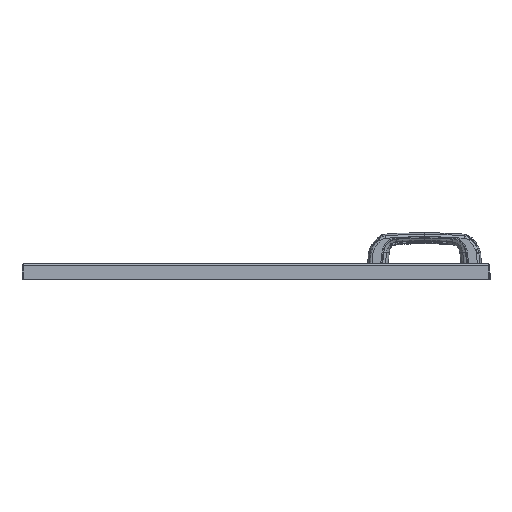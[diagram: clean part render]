
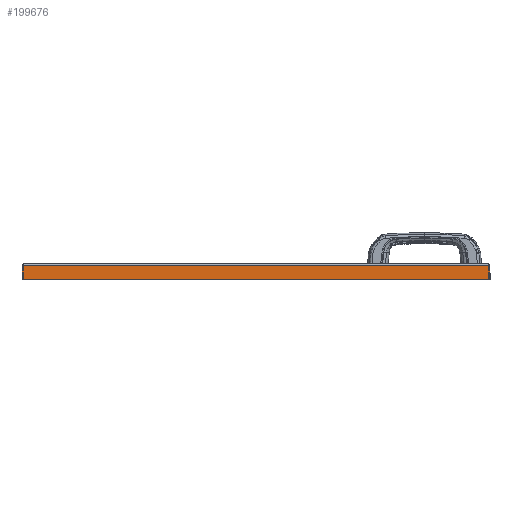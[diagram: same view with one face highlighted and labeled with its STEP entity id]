
A CAD part, left-side view. The second image highlights one B-rep face of the part: STEP entity #199676.
In plain terms, the highlighted planar face has unit normal (-1, 0, 0).
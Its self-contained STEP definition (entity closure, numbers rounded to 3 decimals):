
#195166=CARTESIAN_POINT(' ',(0.,597.,-2.3));
#195167=VERTEX_POINT(' ',#195166);
#195181=CARTESIAN_POINT(' ',(0.,597.,-2.3));
#195186=DIRECTION(' ',(0.,-1.,0.));
#195191=VECTOR(' ',#195186,1.);
#195196=LINE('',#195181,#195191);
#195201=CARTESIAN_POINT(' ',(0.,0.,-2.3));
#195202=VERTEX_POINT(' ',#195201);
#195206=EDGE_CURVE(' ',#195167,#195202,#195196,.T.);
#199536=DIRECTION(' ',(-1.,-0.,-0.));
#199541=CARTESIAN_POINT(' ',(0.,0.,-2.3));
#199546=DIRECTION(' ',(-0.,1.,0.));
#199551=AXIS2_PLACEMENT_3D(' ',#199541,#199536,#199546);
#199556=PLANE('NONE',#199551);
#199561=CARTESIAN_POINT(' ',(0.,0.,-20.));
#199566=DIRECTION(' ',(0.,0.,1.));
#199571=VECTOR(' ',#199566,1.);
#199576=LINE('',#199561,#199571);
#199581=CARTESIAN_POINT(' ',(0.,0.,-20.));
#199582=VERTEX_POINT(' ',#199581);
#199586=EDGE_CURVE(' ',#199582,#195202,#199576,.T.);
#199591=ORIENTED_EDGE(' ',*,*,#199586,.T.);
#199596=ORIENTED_EDGE(' ',*,*,#195206,.F.);
#199601=CARTESIAN_POINT(' ',(0.,597.,-20.));
#199606=DIRECTION(' ',(0.,0.,1.));
#199611=VECTOR(' ',#199606,1.);
#199616=LINE('',#199601,#199611);
#199621=CARTESIAN_POINT(' ',(0.,597.,-20.));
#199622=VERTEX_POINT(' ',#199621);
#199626=EDGE_CURVE(' ',#199622,#195167,#199616,.T.);
#199631=ORIENTED_EDGE(' ',*,*,#199626,.F.);
#199636=CARTESIAN_POINT(' ',(0.,597.,-20.));
#199641=DIRECTION(' ',(0.,-1.,0.));
#199646=VECTOR(' ',#199641,1.);
#199651=LINE('',#199636,#199646);
#199656=EDGE_CURVE(' ',#199622,#199582,#199651,.T.);
#199661=ORIENTED_EDGE(' ',*,*,#199656,.T.);
#199666=EDGE_LOOP(' ',(#199591,#199596,#199631,#199661));
#199671=FACE_OUTER_BOUND(' ',#199666,.T.);
#199676=ADVANCED_FACE('NONE',(#199671),#199556,.T.);
